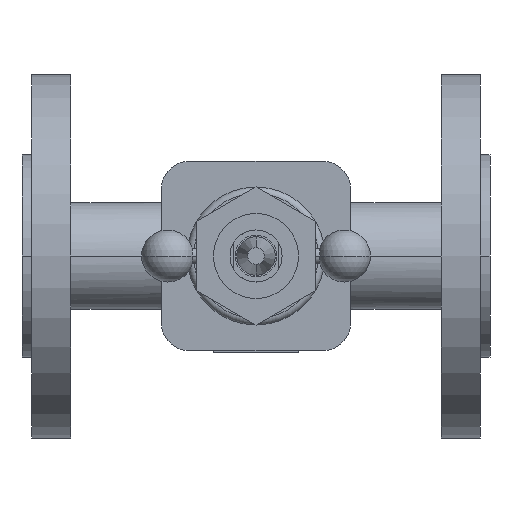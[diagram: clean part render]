
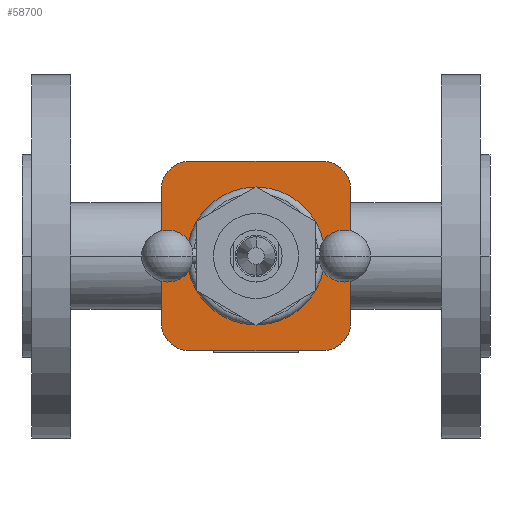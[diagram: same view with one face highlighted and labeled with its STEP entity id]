
A CAD part, front view. The second image highlights one B-rep face of the part: STEP entity #58700.
In plain terms, the highlighted planar face has unit normal (0, -1, 0).
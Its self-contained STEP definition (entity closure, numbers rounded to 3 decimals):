
#14690=CARTESIAN_POINT('',(116.5,-70.5,0.));
#14700=VERTEX_POINT('',#14690);
#14730=CARTESIAN_POINT('',(90.,-70.5,0.));
#14740=DIRECTION('',(0.,-1.,0.));
#14750=DIRECTION('',(-1.,0.,0.));
#14760=AXIS2_PLACEMENT_3D('',#14730,#14740,#14750);
#14770=CIRCLE('',#14760,26.5);
#14780=CARTESIAN_POINT('',(63.5,-70.5,0.));
#14790=VERTEX_POINT('',#14780);
#14800=EDGE_CURVE('',#14790,#14700,#14770,.T.);
#48220=CARTESIAN_POINT('',(126.456,-70.5,-25.456));
#48230=VERTEX_POINT('',#48220);
#48260=CARTESIAN_POINT('',(126.456,-70.5,12.728));
#48270=DIRECTION('',(0.,0.,1.));
#48280=VECTOR('',#48270,1.);
#48290=LINE('',#48260,#48280);
#48300=CARTESIAN_POINT('',(126.456,-70.5,25.456));
#48310=VERTEX_POINT('',#48300);
#48320=EDGE_CURVE('',#48230,#48310,#48290,.T.);
#49080=CARTESIAN_POINT('',(115.456,-70.5,-36.456));
#49090=VERTEX_POINT('',#49080);
#49120=CARTESIAN_POINT('',(115.456,-70.5,-25.456));
#49130=DIRECTION('',(0.,-1.,0.));
#49140=DIRECTION('',(1.,0.,0.));
#49150=AXIS2_PLACEMENT_3D('',#49120,#49130,#49140);
#49160=CIRCLE('',#49150,11.);
#49170=EDGE_CURVE('',#49090,#48230,#49160,.T.);
#49880=CARTESIAN_POINT('',(64.544,-70.5,-36.456));
#49890=VERTEX_POINT('',#49880);
#49920=CARTESIAN_POINT('',(84.103,-70.5,-36.456));
#49930=DIRECTION('',(1.,0.,0.));
#49940=VECTOR('',#49930,1.);
#49950=LINE('',#49920,#49940);
#49960=EDGE_CURVE('',#49890,#49090,#49950,.T.);
#50670=CARTESIAN_POINT('',(53.544,-70.5,-25.456));
#50680=VERTEX_POINT('',#50670);
#50710=CARTESIAN_POINT('',(64.544,-70.5,-25.456));
#50720=DIRECTION('',(0.,-1.,0.));
#50730=DIRECTION('',(0.,0.,-1.));
#50740=AXIS2_PLACEMENT_3D('',#50710,#50720,#50730);
#50750=CIRCLE('',#50740,11.);
#50760=EDGE_CURVE('',#50680,#49890,#50750,.T.);
#51180=CARTESIAN_POINT('',(53.544,-70.5,25.456));
#51190=VERTEX_POINT('',#51180);
#51220=CARTESIAN_POINT('',(53.544,-70.5,-12.728));
#51230=DIRECTION('',(0.,0.,-1.));
#51240=VECTOR('',#51230,1.);
#51250=LINE('',#51220,#51240);
#51260=EDGE_CURVE('',#51190,#50680,#51250,.T.);
#51490=CARTESIAN_POINT('',(64.544,-70.5,36.456));
#51500=VERTEX_POINT('',#51490);
#51530=CARTESIAN_POINT('',(64.544,-70.5,25.456));
#51540=DIRECTION('',(0.,-1.,0.));
#51550=DIRECTION('',(-1.,0.,0.));
#51560=AXIS2_PLACEMENT_3D('',#51530,#51540,#51550);
#51570=CIRCLE('',#51560,11.);
#51580=EDGE_CURVE('',#51500,#51190,#51570,.T.);
#51810=CARTESIAN_POINT('',(115.456,-70.5,36.456));
#51820=VERTEX_POINT('',#51810);
#51850=CARTESIAN_POINT('',(58.647,-70.5,36.456));
#51860=DIRECTION('',(-1.,0.,0.));
#51870=VECTOR('',#51860,1.);
#51880=LINE('',#51850,#51870);
#51890=EDGE_CURVE('',#51820,#51500,#51880,.T.);
#52090=CARTESIAN_POINT('',(115.456,-70.5,25.456));
#52100=DIRECTION('',(0.,-1.,0.));
#52110=DIRECTION('',(0.,0.,1.));
#52120=AXIS2_PLACEMENT_3D('',#52090,#52100,#52110);
#52130=CIRCLE('',#52120,11.);
#52140=EDGE_CURVE('',#48310,#51820,#52130,.T.);
#58500=CARTESIAN_POINT('',(52.75,-70.5,0.));
#58510=DIRECTION('',(0.,-1.,0.));
#58520=DIRECTION('',(-1.,0.,0.));
#58530=AXIS2_PLACEMENT_3D('',#58500,#58510,#58520);
#58540=PLANE('',#58530);
#58550=ORIENTED_EDGE('',*,*,#51580,.T.);
#58560=ORIENTED_EDGE('',*,*,#51890,.T.);
#58570=ORIENTED_EDGE('',*,*,#52140,.T.);
#58580=ORIENTED_EDGE('',*,*,#48320,.T.);
#58590=ORIENTED_EDGE('',*,*,#49170,.T.);
#58600=ORIENTED_EDGE('',*,*,#49960,.T.);
#58610=ORIENTED_EDGE('',*,*,#50760,.T.);
#58620=ORIENTED_EDGE('',*,*,#51260,.T.);
#58630=EDGE_LOOP('',(#58620,#58610,#58600,#58590,#58580,#58570,#58560,
#58550));
#58640=FACE_OUTER_BOUND('',#58630,.T.);
#58650=ORIENTED_EDGE('',*,*,#14800,.F.);
#58660=EDGE_CURVE('',#14700,#14790,#14770,.T.);
#58670=ORIENTED_EDGE('',*,*,#58660,.F.);
#58680=EDGE_LOOP('',(#58670,#58650));
#58690=FACE_BOUND('',#58680,.T.);
#58700=ADVANCED_FACE('',(#58640,#58690),#58540,.T.);
